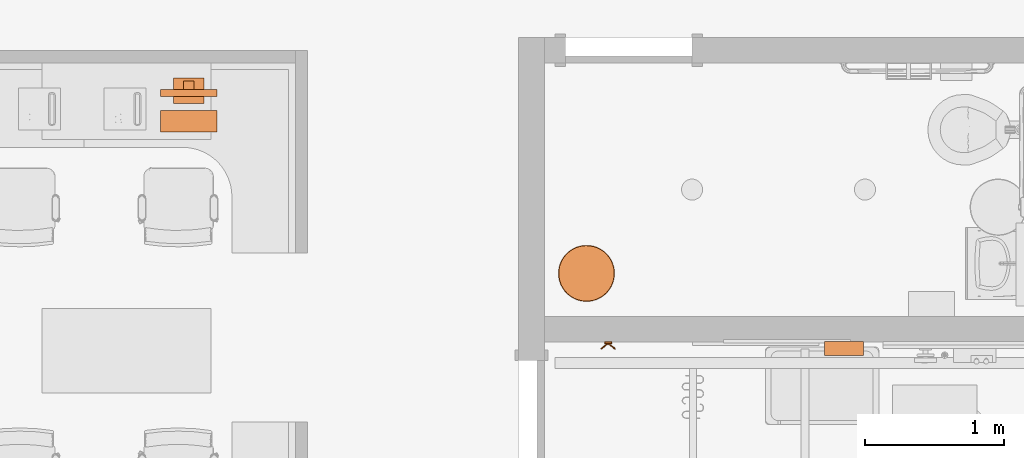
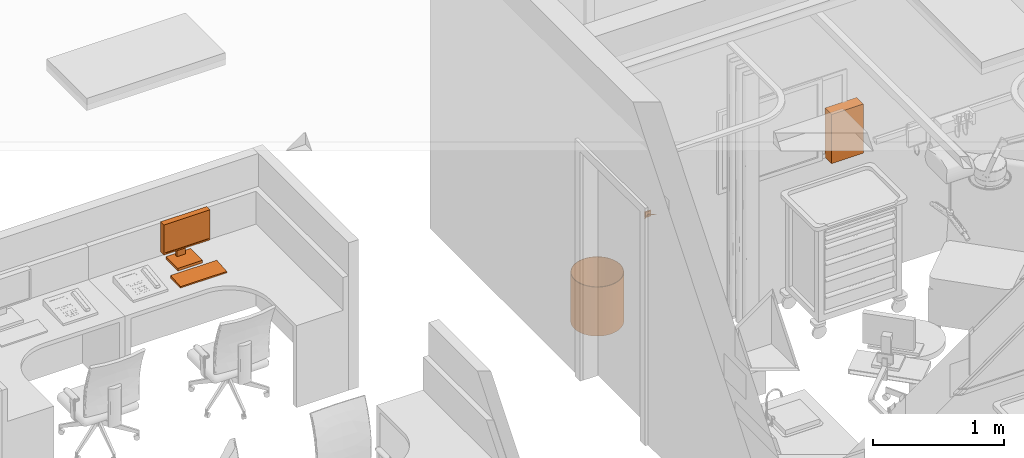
# One storey, part 134 of 142: 4 proxies.
"""IFC2X3 building model written with IfcOpenShell, lengths in feet."""

from ifc_helpers import new_model, entity, si_unit, converted_unit, derived_unit, direction, frame, frame_2d, origin, origin_2d_with_axis, place, context, subcontext, project, spatial, rectangle, circle, hollow_circle, extrude, faceted_brep, source, transform, mapped, type_object, type_shapes, element, save


model = new_model("IFC2X3")

# Units and contexts
model_context = context("Model", 3, precision=0.0001, world=origin(), true_north=direction((6.12303176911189e-17, 1.0)))
body_context = subcontext(model_context, "Body", "Model", "MODEL_VIEW")
ifc_project = project(units=[converted_unit("LENGTHUNIT", "FOOT", entity("IfcRatioMeasure", 0.3048), si_unit("LENGTHUNIT", "METRE"), dimensions=[1, 0, 0, 0, 0, 0, 0]), converted_unit("AREAUNIT", "SQUARE FOOT", entity("IfcRatioMeasure", 0.09290304), si_unit("AREAUNIT", "SQUARE_METRE"), dimensions=[2, 0, 0, 0, 0, 0, 0]), converted_unit("VOLUMEUNIT", "CUBIC FOOT", entity("IfcRatioMeasure", 0.028316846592), si_unit("VOLUMEUNIT", "CUBIC_METRE"), dimensions=[3, 0, 0, 0, 0, 0, 0]), converted_unit("PLANEANGLEUNIT", "DEGREE", entity("IfcRatioMeasure", 0.0174532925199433), si_unit("PLANEANGLEUNIT", "RADIAN"), dimensions=[0, 0, 0, 0, 0, 0, 0]), si_unit("MASSUNIT", "GRAM", prefix="KILO"), derived_unit("MASSDENSITYUNIT", [(si_unit("MASSUNIT", "GRAM", prefix="KILO"), 1), (si_unit("LENGTHUNIT", "METRE"), -3)]), si_unit("TIMEUNIT", "SECOND"), si_unit("FREQUENCYUNIT", "HERTZ"), si_unit("THERMODYNAMICTEMPERATUREUNIT", "DEGREE_CELSIUS"), derived_unit("THERMALTRANSMITTANCEUNIT", [(si_unit("MASSUNIT", "GRAM", prefix="KILO"), 1), (si_unit("THERMODYNAMICTEMPERATUREUNIT", "KELVIN"), -1), (si_unit("TIMEUNIT", "SECOND"), -3)]), derived_unit("VOLUMETRICFLOWRATEUNIT", [(si_unit("LENGTHUNIT", "METRE"), 3), (si_unit("TIMEUNIT", "SECOND"), -1)]), si_unit("ELECTRICCURRENTUNIT", "AMPERE"), si_unit("ELECTRICVOLTAGEUNIT", "VOLT"), si_unit("POWERUNIT", "WATT"), si_unit("FORCEUNIT", "NEWTON"), si_unit("ILLUMINANCEUNIT", "LUX"), si_unit("LUMINOUSFLUXUNIT", "LUMEN"), si_unit("LUMINOUSINTENSITYUNIT", "CANDELA"), derived_unit("USERDEFINED", [(si_unit("MASSUNIT", "GRAM", prefix="KILO"), -1), (si_unit("LENGTHUNIT", "METRE"), -2), (si_unit("TIMEUNIT", "SECOND"), 3), (si_unit("LUMINOUSFLUXUNIT", "LUMEN"), 1)]), derived_unit("LINEARVELOCITYUNIT", [(si_unit("LENGTHUNIT", "METRE"), 1), (si_unit("TIMEUNIT", "SECOND"), -1)]), si_unit("PRESSUREUNIT", "PASCAL"), derived_unit("USERDEFINED", [(si_unit("LENGTHUNIT", "METRE"), -2), (si_unit("MASSUNIT", "GRAM", prefix="KILO"), 1), (si_unit("TIMEUNIT", "SECOND"), -2)])], contexts=[model_context])

# Site, building, storey, space
site_placement = place(None, origin())
site = spatial("IfcSite", under=ifc_project, at=site_placement, Name="Default", CompositionType="ELEMENT")
building_placement = place(site_placement, origin())
building = spatial("IfcBuilding", under=site, at=building_placement, Name="OUTPATIENT / PACT CLINIC (Ch. 265)", CompositionType="ELEMENT")
storey_placement = place(building_placement, origin())
storey = spatial("IfcBuildingStorey", under=building, at=storey_placement, Name="LEVEL 1", CompositionType="ELEMENT", Elevation=0.0)
space_1_placement = place(storey_placement, origin())
space_1 = spatial("IfcSpace", under=storey, at=space_1_placement, Name="WRTM1", CompositionType="ELEMENT", InteriorOrExteriorSpace="INTERNAL")

# Proxy
building_element_proxy_type_1 = type_object("IfcBuildingElementProxyType", Name="M1801 - Computer with Flat Panel Monitor", PredefinedType="NOTDEFINED")
shared_shape_1 = source(origin(), body_context, "Body", "Brep", [
    faceted_brep([(0.666666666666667, 0.5625, 0.0), (0.666666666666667, 0.5625, 0.0416666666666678), (0.666666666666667, 0.0624999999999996, 0.0833333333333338), (0.666666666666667, 0.0624999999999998, 0.0), (-0.666666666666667, 0.5625, 0.0), (-0.666666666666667, 0.0624999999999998, 0.0), (-0.666666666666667, 0.0624999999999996, 0.0833333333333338), (-0.666666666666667, 0.5625, 0.0416666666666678)], [[[0, 1, 2, 3]], [[4, 5, 6, 7]], [[3, 5, 4, 0]], [[2, 6, 5, 3]], [[1, 7, 6, 2]], [[0, 4, 7, 1]]]),
    faceted_brep([(0.666666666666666, -0.437223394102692, 1.41666666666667), (0.666666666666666, -0.271109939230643, 1.41666666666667), (-0.666666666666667, -0.271109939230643, 1.41666666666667), (-0.666666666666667, -0.437223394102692, 1.41666666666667), (0.666666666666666, -0.437223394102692, 0.500000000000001), (-0.666666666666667, -0.437223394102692, 0.500000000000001), (-0.666666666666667, -0.271109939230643, 0.500000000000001), (0.666666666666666, -0.271109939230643, 0.500000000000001), (-0.625, -0.271109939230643, 1.375), (-0.625, -0.271109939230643, 0.541666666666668), (0.625, -0.271109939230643, 0.541666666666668), (0.625, -0.271109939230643, 1.375), (0.625, -0.286812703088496, 1.375), (-0.625, -0.286812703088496, 1.375), (0.625, -0.286812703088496, 0.541666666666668), (-0.625, -0.286812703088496, 0.541666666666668)], [[[0, 1, 2, 3]], [[4, 5, 6, 7]], [[3, 5, 4, 0]], [[2, 6, 5, 3]], [[8, 9, 10, 11], [1, 7, 6, 2]], [[0, 4, 7, 1]], [[12, 13, 8, 11]], [[14, 10, 9, 15]], [[12, 14, 15, 13]], [[13, 15, 9, 8]], [[11, 10, 14, 12]]], outer=[[True], [True], [True], [True], [False, True], [True], [True], [True], [True], [True], [True]]),
    faceted_brep([(0.358011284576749, -0.111770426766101, 0.0833333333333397), (0.358011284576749, -0.708333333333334, 0.0833333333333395), (0.358011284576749, -0.708333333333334, 0.0), (0.358011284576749, -0.111770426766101, 0.0), (-0.358011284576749, -0.708333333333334, 0.0833333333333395), (-0.358011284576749, -0.111770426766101, 0.0833333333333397), (-0.358011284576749, -0.111770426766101, 0.0), (-0.358011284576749, -0.708333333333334, 0.0), (0.12128795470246, -0.645556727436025, 0.104166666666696), (-0.12128795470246, -0.645556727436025, 0.104166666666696), (-0.12128795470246, -0.645556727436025, 0.0833333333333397), (0.12128795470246, -0.645556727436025, 0.0833333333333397), (0.12128795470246, -0.645556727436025, 0.958333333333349), (-0.12128795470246, -0.645556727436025, 0.958333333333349), (0.12128795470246, -0.437223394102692, 0.958333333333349), (-0.12128795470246, -0.437223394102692, 0.958333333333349), (0.12128795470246, -0.437223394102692, 0.791666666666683), (-0.12128795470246, -0.437223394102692, 0.791666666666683), (0.12128795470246, -0.562223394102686, 0.791666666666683), (-0.12128795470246, -0.562223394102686, 0.791666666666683), (0.12128795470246, -0.562223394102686, 0.0833333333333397), (-0.12128795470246, -0.562223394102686, 0.0833333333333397)], [[[0, 1, 2, 3]], [[4, 5, 6, 7]], [[8, 9, 10, 11]], [[12, 13, 9, 8]], [[14, 15, 13, 12]], [[16, 17, 15, 14]], [[18, 19, 17, 16]], [[20, 21, 19, 18]], [[11, 10, 21, 20], [0, 5, 4, 1]], [[3, 6, 5, 0]], [[2, 7, 6, 3]], [[1, 4, 7, 2]], [[20, 18, 16, 14, 12, 8, 11]], [[10, 9, 13, 15, 17, 19, 21]]], outer=[[True], [True], [True], [True], [True], [True], [True], [True], [False, True], [True], [True], [True], [True], [True]]),
])
type_shapes(building_element_proxy_type_1, [shared_shape_1])
proxy_1_placement = place(space_1_placement, frame((426.836864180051, -877.489683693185, 2.49999999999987), z_axis=(0.0, 0.0, 1.0), x_axis=(-1.0, 0.0, 0.0)))
element("IfcBuildingElementProxy", 1, at=proxy_1_placement, inside=space_1, type_object=building_element_proxy_type_1, Name="M1801 - Computer with Flat Panel Monitor:M1801 - Computer with Flat Panel Monitor", ObjectType="M1801 - Computer with Flat Panel Monitor", context=body_context, shape_type="MappedRepresentation", body=[
    mapped(shared_shape_1, transform((0.0, 0.0, 0.0), scale=1.0)),
])

# Space
space_2_placement = place(storey_placement, origin())
space_2 = spatial("IfcSpace", under=storey, at=space_2_placement, Name="TNPG1", CompositionType="ELEMENT", InteriorOrExteriorSpace="INTERNAL")

# Proxy
building_element_proxy_type_2 = type_object("IfcBuildingElementProxyType", Name="F2000 - Basket, Wastepaper", PredefinedType="NOTDEFINED")
shared_shape_2 = source(origin(), body_context, "Body", "SweptSolid", [
    extrude(circle(Radius=0.666666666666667, at=frame_2d((0.0, -3.14944602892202e-15), x_axis=(1.0, 0.0))), origin(), (0.0, 0.0, 1.0), 0.0104166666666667),
    extrude(hollow_circle(Radius=0.666666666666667, WallThickness=0.0104166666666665, at=frame_2d((0.0, -3.14944602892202e-15), x_axis=(1.0, 0.0))), frame((0.0, 0.0, 0.0104166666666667)), (0.0, 0.0, 1.0), 1.48958333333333),
])
type_shapes(building_element_proxy_type_2, [shared_shape_2])
proxy_2_placement = place(space_2_placement, frame((436.254976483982, -881.404872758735, 0.0), z_axis=(0.0, 0.0, 1.0), x_axis=(-1.0, 0.0, 0.0)))
element("IfcBuildingElementProxy", 2, at=proxy_2_placement, inside=space_2, type_object=building_element_proxy_type_2, Name="F2000 - Basket, Wastepaper:F2000 - Basket, Wastepaper", ObjectType="F2000 - Basket, Wastepaper", context=body_context, shape_type="MappedRepresentation", body=[
    mapped(shared_shape_2, transform((0.0, 0.0, 0.0), scale=1.0)),
])

# Space
space_3_placement = place(storey_placement, origin())
space_3 = spatial("IfcSpace", under=storey, at=space_3_placement, Name="EXPA1", CompositionType="ELEMENT", InteriorOrExteriorSpace="INTERNAL")

# Proxies
building_element_proxy_type_3 = type_object("IfcBuildingElementProxyType", Name="A5145 - Hook, Garment, Double", PredefinedType="NOTDEFINED")
shared_shape_3 = source(origin(), body_context, "Body", "SweptSolid", [
    extrude(circle(Radius=0.0105952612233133, at=frame_2d((-1.64551454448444e-31, -4.16333634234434e-17), x_axis=(1.0, 0.0))), frame((-0.169086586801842, -0.168481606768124, 0.0833333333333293), z_axis=(0.799999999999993, 0.60000000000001, 0.0), x_axis=(0.60000000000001, -0.799999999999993, 0.0)), (0.0, 0.0, 1.0), 0.211358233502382),
    extrude(circle(Radius=0.0105952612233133, at=frame_2d((5.2041704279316e-19, 2.77555756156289e-17), x_axis=(1.0, 0.0))), frame((0.0, -0.0416666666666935, 0.083333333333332), z_axis=(0.799999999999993, -0.60000000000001, 0.0), x_axis=(-0.60000000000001, -0.799999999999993, 0.0)), (0.0, 0.0, 1.0), 0.211358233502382),
    extrude(rectangle(XDim=0.0416666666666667, YDim=0.166666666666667, at=origin_2d_with_axis()), frame((0.0, -0.0208333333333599, 0.0), z_axis=(0.0, 0.0, 1.0), x_axis=(0.0, 1.0, 0.0)), (0.0, 0.0, 1.0), 0.166666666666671),
])
type_shapes(building_element_proxy_type_3, [shared_shape_3])
proxy_3_placement = place(space_3_placement, frame((436.765393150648, -883.024555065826, 4.0)))
element("IfcBuildingElementProxy", 3, at=proxy_3_placement, inside=space_3, type_object=building_element_proxy_type_3, Name="A5145 - Hook, Garment, Double:A5145 - Hook, Garment, Double", ObjectType="A5145 - Hook, Garment, Double", context=body_context, shape_type="MappedRepresentation", body=[
    mapped(shared_shape_3, transform((0.0, 0.0, 0.0), scale=1.0)),
])
building_element_proxy_type_4 = type_object("IfcBuildingElementProxyType", Name="A5107 - Dispenser, Glove, Surgical-Examination, Wall Mntd 10\"x 4\"", PredefinedType="NOTDEFINED")
shared_shape_4 = source(origin(), body_context, "Body", "SweptSolid", [
    extrude(rectangle(XDim=0.333333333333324, YDim=0.916666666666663, at=frame_2d((-1.38777878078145e-17, 0.0), x_axis=(1.0, 0.0))), frame((0.0, 0.166666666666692, 0.0), z_axis=(0.0, 0.0, 1.0), x_axis=(0.0, 1.0, 0.0)), (0.0, 0.0, 1.0), 1.5),
])
type_shapes(building_element_proxy_type_4, [shared_shape_4])
proxy_4_placement = place(space_3_placement, frame((442.353934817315, -883.014810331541, 4.0), z_axis=(0.0, 0.0, 1.0), x_axis=(-1.0, 0.0, 0.0)))
element("IfcBuildingElementProxy", 4, at=proxy_4_placement, inside=space_3, type_object=building_element_proxy_type_4, Name="A5107 - Dispenser, Glove, Surgical-Examination, Wall Mntd1:A5107 - Dispenser, Glove, Surgical-Examination, Wall Mntd 10\"x 4\"", ObjectType="A5107 - Dispenser, Glove, Surgical-Examination, Wall Mntd 10\"x 4\"", context=body_context, shape_type="MappedRepresentation", body=[
    mapped(shared_shape_4, transform((0.0, 0.0, 0.0), scale=1.0)),
])

save(model, "model.ifc")
